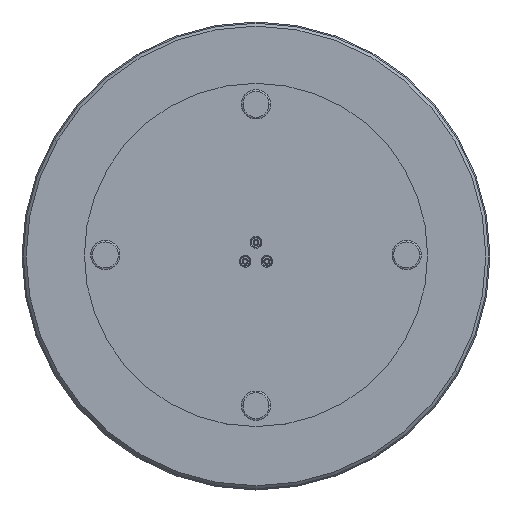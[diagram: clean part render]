
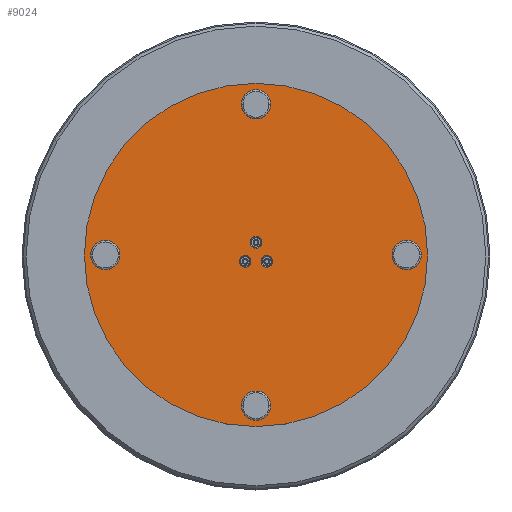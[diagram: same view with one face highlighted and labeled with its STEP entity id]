
A CAD part, top view. The second image highlights one B-rep face of the part: STEP entity #9024.
In plain terms, the highlighted planar face has unit normal (0, 0, 1).
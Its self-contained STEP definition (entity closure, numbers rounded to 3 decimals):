
#21 = CIRCLE ( 'NONE', #8042, 205. ) ;
#36 = DIRECTION ( 'NONE',  ( 0., 0., -1. ) ) ;
#93 = EDGE_LOOP ( 'NONE', ( #5841, #1581 ) ) ;
#410 = DIRECTION ( 'NONE',  ( 1., 0., 0. ) ) ;
#569 = VERTEX_POINT ( 'NONE', #8507 ) ;
#617 = DIRECTION ( 'NONE',  ( 1., 0., 0. ) ) ;
#793 = DIRECTION ( 'NONE',  ( 1., 0., 0. ) ) ;
#916 = CARTESIAN_POINT ( 'NONE',  ( -12.99, -7.5, 5. ) ) ;
#1207 = CARTESIAN_POINT ( 'NONE',  ( -19.99, -7.5, 5. ) ) ;
#1253 = AXIS2_PLACEMENT_3D ( 'NONE', #4529, #6886, #6937 ) ;
#1291 = CARTESIAN_POINT ( 'NONE',  ( 0., 15., 5. ) ) ;
#1355 = AXIS2_PLACEMENT_3D ( 'NONE', #4909, #1675, #5641 ) ;
#1414 = PLANE ( 'NONE',  #4188 ) ;
#1581 = ORIENTED_EDGE ( 'NONE', *, *, #4899, .T. ) ;
#1675 = DIRECTION ( 'NONE',  ( 0., 0., -1. ) ) ;
#1710 = AXIS2_PLACEMENT_3D ( 'NONE', #916, #36, #4982 ) ;
#1814 = CARTESIAN_POINT ( 'NONE',  ( -7., 15., 5. ) ) ;
#2188 = FACE_BOUND ( 'NONE', #10250, .T. ) ;
#2272 = AXIS2_PLACEMENT_3D ( 'NONE', #5143, #3673, #7648 ) ;
#2354 = DIRECTION ( 'NONE',  ( 0., 0., 1. ) ) ;
#2539 = CARTESIAN_POINT ( 'NONE',  ( 205., 0., 5. ) ) ;
#2633 = ORIENTED_EDGE ( 'NONE', *, *, #10244, .T. ) ;
#2639 = EDGE_CURVE ( 'NONE', #5953, #7583, #9251, .T. ) ;
#2686 = CIRCLE ( 'NONE', #1355, 7. ) ;
#2906 = VERTEX_POINT ( 'NONE', #1814 ) ;
#3028 = EDGE_CURVE ( 'NONE', #2906, #8702, #8280, .T. ) ;
#3240 = CARTESIAN_POINT ( 'NONE',  ( 12.99, -7.5, 5. ) ) ;
#3632 = DIRECTION ( 'NONE',  ( 0., 0., 1. ) ) ;
#3646 = CARTESIAN_POINT ( 'NONE',  ( 7., 15., 5. ) ) ;
#3673 = DIRECTION ( 'NONE',  ( 0., 0., -1. ) ) ;
#3733 = DIRECTION ( 'NONE',  ( 0., 0., -1. ) ) ;
#4188 = AXIS2_PLACEMENT_3D ( 'NONE', #7060, #2354, #5546 ) ;
#4194 = CIRCLE ( 'NONE', #7534, 7. ) ;
#4308 = ORIENTED_EDGE ( 'NONE', *, *, #3028, .T. ) ;
#4529 = CARTESIAN_POINT ( 'NONE',  ( 0., 0., 5. ) ) ;
#4627 = ORIENTED_EDGE ( 'NONE', *, *, #7467, .T. ) ;
#4752 = DIRECTION ( 'NONE',  ( 0., 0., -1. ) ) ;
#4756 = DIRECTION ( 'NONE',  ( 0., 0., -1. ) ) ;
#4899 = EDGE_CURVE ( 'NONE', #9894, #6589, #6207, .T. ) ;
#4909 = CARTESIAN_POINT ( 'NONE',  ( 12.99, -7.5, 5. ) ) ;
#4982 = DIRECTION ( 'NONE',  ( 1., 0., 0. ) ) ;
#5143 = CARTESIAN_POINT ( 'NONE',  ( 0., 15., 5. ) ) ;
#5263 = CARTESIAN_POINT ( 'NONE',  ( 0., 0., 5. ) ) ;
#5330 = EDGE_LOOP ( 'NONE', ( #7042, #10026 ) ) ;
#5467 = EDGE_CURVE ( 'NONE', #6589, #9894, #8381, .T. ) ;
#5546 = DIRECTION ( 'NONE',  ( 1., 0., 0. ) ) ;
#5641 = DIRECTION ( 'NONE',  ( 1., 0., 0. ) ) ;
#5841 = ORIENTED_EDGE ( 'NONE', *, *, #5467, .T. ) ;
#5953 = VERTEX_POINT ( 'NONE', #2539 ) ;
#6163 = CARTESIAN_POINT ( 'NONE',  ( -12.99, -7.5, 5. ) ) ;
#6207 = CIRCLE ( 'NONE', #1710, 7. ) ;
#6589 = VERTEX_POINT ( 'NONE', #9225 ) ;
#6618 = EDGE_CURVE ( 'NONE', #7583, #5953, #21, .T. ) ;
#6886 = DIRECTION ( 'NONE',  ( 0., 0., 1. ) ) ;
#6937 = DIRECTION ( 'NONE',  ( 1., 0., 0. ) ) ;
#7042 = ORIENTED_EDGE ( 'NONE', *, *, #6618, .T. ) ;
#7060 = CARTESIAN_POINT ( 'NONE',  ( 0., 0., 5. ) ) ;
#7467 = EDGE_CURVE ( 'NONE', #8702, #2906, #4194, .T. ) ;
#7534 = AXIS2_PLACEMENT_3D ( 'NONE', #1291, #3733, #617 ) ;
#7550 = AXIS2_PLACEMENT_3D ( 'NONE', #6163, #4756, #793 ) ;
#7583 = VERTEX_POINT ( 'NONE', #10009 ) ;
#7648 = DIRECTION ( 'NONE',  ( 1., 0., 0. ) ) ;
#7838 = FACE_BOUND ( 'NONE', #7973, .T. ) ;
#7944 = CARTESIAN_POINT ( 'NONE',  ( 5.99, -7.5, 5. ) ) ;
#7973 = EDGE_LOOP ( 'NONE', ( #2633, #9404 ) ) ;
#8042 = AXIS2_PLACEMENT_3D ( 'NONE', #5263, #3632, #410 ) ;
#8090 = DIRECTION ( 'NONE',  ( 1., 0., 0. ) ) ;
#8280 = CIRCLE ( 'NONE', #2272, 7. ) ;
#8381 = CIRCLE ( 'NONE', #7550, 7. ) ;
#8507 = CARTESIAN_POINT ( 'NONE',  ( 19.99, -7.5, 5. ) ) ;
#8564 = FACE_OUTER_BOUND ( 'NONE', #5330, .T. ) ;
#8667 = AXIS2_PLACEMENT_3D ( 'NONE', #3240, #4752, #8090 ) ;
#8702 = VERTEX_POINT ( 'NONE', #3646 ) ;
#8770 = FACE_BOUND ( 'NONE', #93, .T. ) ;
#8966 = VERTEX_POINT ( 'NONE', #7944 ) ;
#9024 = ADVANCED_FACE ( 'NONE', ( #8770, #7838, #2188, #8564 ), #1414, .T. ) ;
#9166 = EDGE_CURVE ( 'NONE', #8966, #569, #2686, .T. ) ;
#9225 = CARTESIAN_POINT ( 'NONE',  ( -5.99, -7.5, 5. ) ) ;
#9251 = CIRCLE ( 'NONE', #1253, 205. ) ;
#9404 = ORIENTED_EDGE ( 'NONE', *, *, #9166, .T. ) ;
#9894 = VERTEX_POINT ( 'NONE', #1207 ) ;
#10008 = CIRCLE ( 'NONE', #8667, 7. ) ;
#10009 = CARTESIAN_POINT ( 'NONE',  ( -205., 0., 5. ) ) ;
#10026 = ORIENTED_EDGE ( 'NONE', *, *, #2639, .T. ) ;
#10244 = EDGE_CURVE ( 'NONE', #569, #8966, #10008, .T. ) ;
#10250 = EDGE_LOOP ( 'NONE', ( #4627, #4308 ) ) ;
